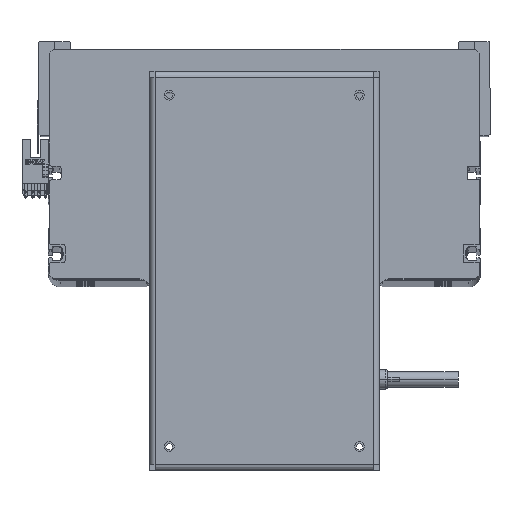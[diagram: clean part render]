
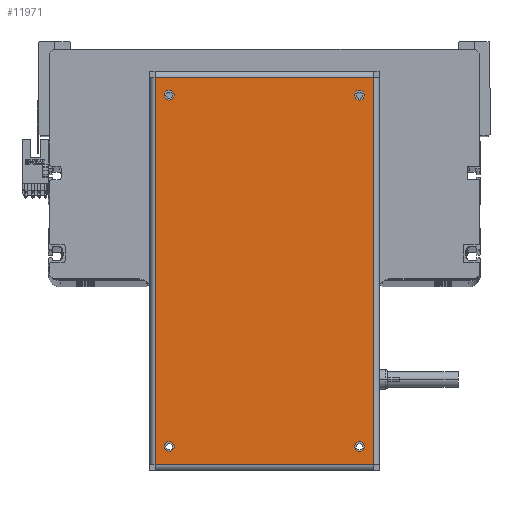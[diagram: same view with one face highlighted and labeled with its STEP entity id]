
A CAD part, top view. The second image highlights one B-rep face of the part: STEP entity #11971.
In plain terms, the highlighted planar face has unit normal (0, 0, 1).
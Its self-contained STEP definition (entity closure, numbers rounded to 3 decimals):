
#93 = DIRECTION ( 'NONE',  ( 0., 0., 1. ) ) ;
#321 = DIRECTION ( 'NONE',  ( 1., 0., 0. ) ) ;
#587 = LINE ( 'NONE', #16906, #35233 ) ;
#761 = CARTESIAN_POINT ( 'NONE',  ( -89.55, -48.5, 0. ) ) ;
#912 = DIRECTION ( 'NONE',  ( 1., 0., 0. ) ) ;
#2005 = DIRECTION ( 'NONE',  ( 1., 0., 0. ) ) ;
#2243 = PLANE ( 'NONE',  #22865 ) ;
#3006 = DIRECTION ( 'NONE',  ( 1., 0., 0. ) ) ;
#3065 = EDGE_CURVE ( 'NONE', #27055, #28252, #30175, .T. ) ;
#3379 = CARTESIAN_POINT ( 'NONE',  ( 98.65, -55.6, 0. ) ) ;
#3522 = DIRECTION ( 'NONE',  ( 0., 1., 0. ) ) ;
#3553 = CARTESIAN_POINT ( 'NONE',  ( 87.05, -48.5, 0. ) ) ;
#3885 = ORIENTED_EDGE ( 'NONE', *, *, #19636, .F. ) ;
#4411 = CIRCLE ( 'NONE', #35856, 2.5 ) ;
#5303 = EDGE_CURVE ( 'NONE', #24077, #26071, #37998, .T. ) ;
#5579 = CARTESIAN_POINT ( 'NONE',  ( 98.75, 58.5, 0. ) ) ;
#5608 = AXIS2_PLACEMENT_3D ( 'NONE', #35950, #12758, #19472 ) ;
#5729 = DIRECTION ( 'NONE',  ( 0., 0., -1. ) ) ;
#7303 = VERTEX_POINT ( 'NONE', #17617 ) ;
#7597 = CARTESIAN_POINT ( 'NONE',  ( 98.65, 55.6, 0. ) ) ;
#8033 = ORIENTED_EDGE ( 'NONE', *, *, #30601, .F. ) ;
#8732 = DIRECTION ( 'NONE',  ( 0., 0., 1. ) ) ;
#9158 = AXIS2_PLACEMENT_3D ( 'NONE', #36236, #17538, #30328 ) ;
#9792 = CARTESIAN_POINT ( 'NONE',  ( -98.65, 55.6, 0. ) ) ;
#10947 = LINE ( 'NONE', #34635, #21891 ) ;
#11274 = AXIS2_PLACEMENT_3D ( 'NONE', #761, #27820, #912 ) ;
#11864 = VERTEX_POINT ( 'NONE', #14996 ) ;
#11971 = ADVANCED_FACE ( 'NONE', ( #42492, #33046, #35695, #17808, #15718 ), #2243, .F. ) ;
#12550 = CARTESIAN_POINT ( 'NONE',  ( -98.65, 55.6, 0. ) ) ;
#12758 = DIRECTION ( 'NONE',  ( 0., 0., 1. ) ) ;
#13288 = CARTESIAN_POINT ( 'NONE',  ( 89.55, -48.5, 0. ) ) ;
#13434 = VECTOR ( 'NONE', #39410, 1000. ) ;
#13460 = VECTOR ( 'NONE', #3522, 1000. ) ;
#13538 = AXIS2_PLACEMENT_3D ( 'NONE', #39055, #22112, #35240 ) ;
#13754 = ORIENTED_EDGE ( 'NONE', *, *, #25575, .F. ) ;
#13762 = EDGE_CURVE ( 'NONE', #37324, #22107, #30731, .T. ) ;
#14171 = AXIS2_PLACEMENT_3D ( 'NONE', #13288, #93, #3006 ) ;
#14933 = VERTEX_POINT ( 'NONE', #42105 ) ;
#14996 = CARTESIAN_POINT ( 'NONE',  ( -92.05, 48.5, 0. ) ) ;
#15651 = CARTESIAN_POINT ( 'NONE',  ( -98.65, -55.6, 0. ) ) ;
#15718 = FACE_OUTER_BOUND ( 'NONE', #22344, .T. ) ;
#15816 = CIRCLE ( 'NONE', #5608, 2.5 ) ;
#16906 = CARTESIAN_POINT ( 'NONE',  ( 98.75, 55.6, 0. ) ) ;
#16942 = CIRCLE ( 'NONE', #35137, 2.5 ) ;
#16994 = CARTESIAN_POINT ( 'NONE',  ( 98.65, -55.6, 0. ) ) ;
#17538 = DIRECTION ( 'NONE',  ( 0., 0., 1. ) ) ;
#17617 = CARTESIAN_POINT ( 'NONE',  ( -87.05, 48.5, 0. ) ) ;
#17808 = FACE_BOUND ( 'NONE', #42544, .T. ) ;
#19472 = DIRECTION ( 'NONE',  ( 1., 0., 0. ) ) ;
#19636 = EDGE_CURVE ( 'NONE', #7303, #11864, #16942, .T. ) ;
#20605 = EDGE_CURVE ( 'NONE', #26071, #24077, #15816, .T. ) ;
#20705 = CIRCLE ( 'NONE', #13538, 2.5 ) ;
#21265 = ORIENTED_EDGE ( 'NONE', *, *, #39588, .T. ) ;
#21792 = EDGE_CURVE ( 'NONE', #28252, #27055, #20705, .T. ) ;
#21867 = DIRECTION ( 'NONE',  ( 0., 0., 1. ) ) ;
#21891 = VECTOR ( 'NONE', #22206, 1000. ) ;
#22107 = VERTEX_POINT ( 'NONE', #7597 ) ;
#22112 = DIRECTION ( 'NONE',  ( 0., 0., 1. ) ) ;
#22206 = DIRECTION ( 'NONE',  ( 1., 0., 0. ) ) ;
#22344 = EDGE_LOOP ( 'NONE', ( #21265, #34241, #33336, #43288 ) ) ;
#22721 = CARTESIAN_POINT ( 'NONE',  ( 92.05, -48.5, 0. ) ) ;
#22865 = AXIS2_PLACEMENT_3D ( 'NONE', #5579, #5729, #29168 ) ;
#24077 = VERTEX_POINT ( 'NONE', #22721 ) ;
#24099 = EDGE_LOOP ( 'NONE', ( #3885, #8033 ) ) ;
#25575 = EDGE_CURVE ( 'NONE', #42688, #14933, #38330, .T. ) ;
#26002 = CARTESIAN_POINT ( 'NONE',  ( 87.05, 48.5, 0. ) ) ;
#26071 = VERTEX_POINT ( 'NONE', #3553 ) ;
#26649 = CARTESIAN_POINT ( 'NONE',  ( 89.55, 48.5, 0. ) ) ;
#26747 = CARTESIAN_POINT ( 'NONE',  ( -92.05, -48.5, 0. ) ) ;
#27055 = VERTEX_POINT ( 'NONE', #26747 ) ;
#27814 = EDGE_CURVE ( 'NONE', #37603, #37324, #10947, .T. ) ;
#27820 = DIRECTION ( 'NONE',  ( 0., 0., 1. ) ) ;
#28103 = CARTESIAN_POINT ( 'NONE',  ( -89.55, 48.5, 0. ) ) ;
#28160 = ORIENTED_EDGE ( 'NONE', *, *, #21792, .F. ) ;
#28252 = VERTEX_POINT ( 'NONE', #31716 ) ;
#28455 = ORIENTED_EDGE ( 'NONE', *, *, #33210, .F. ) ;
#28588 = CARTESIAN_POINT ( 'NONE',  ( -89.55, 48.5, 0. ) ) ;
#29168 = DIRECTION ( 'NONE',  ( -1., 0., 0. ) ) ;
#30175 = CIRCLE ( 'NONE', #11274, 2.5 ) ;
#30328 = DIRECTION ( 'NONE',  ( 1., 0., 0. ) ) ;
#30601 = EDGE_CURVE ( 'NONE', #11864, #7303, #4411, .T. ) ;
#30731 = LINE ( 'NONE', #16994, #13460 ) ;
#31419 = EDGE_LOOP ( 'NONE', ( #36193, #42490 ) ) ;
#31716 = CARTESIAN_POINT ( 'NONE',  ( -87.05, -48.5, 0. ) ) ;
#31965 = CIRCLE ( 'NONE', #37671, 2.5 ) ;
#33046 = FACE_BOUND ( 'NONE', #24099, .T. ) ;
#33210 = EDGE_CURVE ( 'NONE', #14933, #42688, #31965, .T. ) ;
#33336 = ORIENTED_EDGE ( 'NONE', *, *, #13762, .T. ) ;
#34241 = ORIENTED_EDGE ( 'NONE', *, *, #27814, .T. ) ;
#34424 = LINE ( 'NONE', #12550, #13434 ) ;
#34635 = CARTESIAN_POINT ( 'NONE',  ( -98.75, -55.6, 0. ) ) ;
#34820 = ORIENTED_EDGE ( 'NONE', *, *, #3065, .F. ) ;
#35137 = AXIS2_PLACEMENT_3D ( 'NONE', #28103, #8732, #2005 ) ;
#35233 = VECTOR ( 'NONE', #39826, 1000. ) ;
#35240 = DIRECTION ( 'NONE',  ( 1., 0., 0. ) ) ;
#35269 = DIRECTION ( 'NONE',  ( 1., 0., 0. ) ) ;
#35695 = FACE_BOUND ( 'NONE', #31419, .T. ) ;
#35815 = EDGE_CURVE ( 'NONE', #22107, #43390, #587, .T. ) ;
#35856 = AXIS2_PLACEMENT_3D ( 'NONE', #28588, #21867, #35269 ) ;
#35950 = CARTESIAN_POINT ( 'NONE',  ( 89.55, -48.5, 0. ) ) ;
#36193 = ORIENTED_EDGE ( 'NONE', *, *, #5303, .F. ) ;
#36236 = CARTESIAN_POINT ( 'NONE',  ( 89.55, 48.5, 0. ) ) ;
#36711 = DIRECTION ( 'NONE',  ( 0., 0., 1. ) ) ;
#37324 = VERTEX_POINT ( 'NONE', #3379 ) ;
#37380 = EDGE_LOOP ( 'NONE', ( #28160, #34820 ) ) ;
#37603 = VERTEX_POINT ( 'NONE', #15651 ) ;
#37671 = AXIS2_PLACEMENT_3D ( 'NONE', #26649, #36711, #321 ) ;
#37998 = CIRCLE ( 'NONE', #14171, 2.5 ) ;
#38330 = CIRCLE ( 'NONE', #9158, 2.5 ) ;
#39055 = CARTESIAN_POINT ( 'NONE',  ( -89.55, -48.5, 0. ) ) ;
#39410 = DIRECTION ( 'NONE',  ( 0., -1., 0. ) ) ;
#39588 = EDGE_CURVE ( 'NONE', #43390, #37603, #34424, .T. ) ;
#39826 = DIRECTION ( 'NONE',  ( -1., 0., 0. ) ) ;
#42105 = CARTESIAN_POINT ( 'NONE',  ( 92.05, 48.5, 0. ) ) ;
#42490 = ORIENTED_EDGE ( 'NONE', *, *, #20605, .F. ) ;
#42492 = FACE_BOUND ( 'NONE', #37380, .T. ) ;
#42544 = EDGE_LOOP ( 'NONE', ( #28455, #13754 ) ) ;
#42688 = VERTEX_POINT ( 'NONE', #26002 ) ;
#43288 = ORIENTED_EDGE ( 'NONE', *, *, #35815, .T. ) ;
#43390 = VERTEX_POINT ( 'NONE', #9792 ) ;
